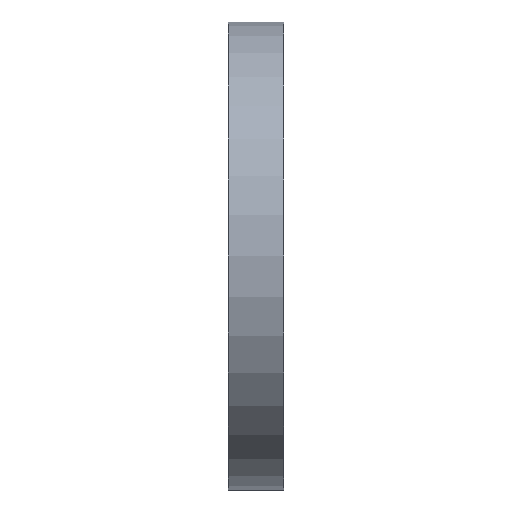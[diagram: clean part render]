
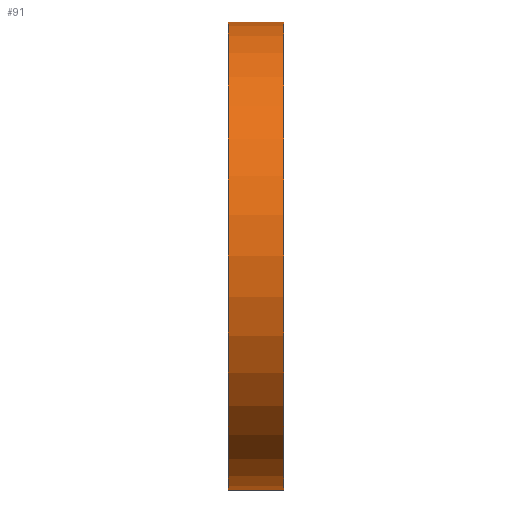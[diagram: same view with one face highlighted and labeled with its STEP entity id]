
A CAD part, left-side view. The second image highlights one B-rep face of the part: STEP entity #91.
In plain terms, the highlighted cylindrical face has radius 92.5 mm (diameter 185 mm), a partial arc.
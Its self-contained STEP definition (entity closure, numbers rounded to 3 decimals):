
#5 = CIRCLE ( 'NONE', #35, 92.5 ) ;
#6 = DIRECTION ( 'NONE',  ( 0., 0., 1. ) ) ;
#14 = CIRCLE ( 'NONE', #487, 92.5 ) ;
#32 = DIRECTION ( 'NONE',  ( 0., 1., 0. ) ) ;
#35 = AXIS2_PLACEMENT_3D ( 'NONE', #608, #32, #287 ) ;
#61 = VECTOR ( 'NONE', #681, 1000. ) ;
#91 = ADVANCED_FACE ( 'NONE', ( #839 ), #196, .T. ) ;
#133 = CARTESIAN_POINT ( 'NONE',  ( 0., 0., -92.5 ) ) ;
#154 = EDGE_LOOP ( 'NONE', ( #625, #457, #344, #827 ) ) ;
#196 = CYLINDRICAL_SURFACE ( 'NONE', #831, 92.5 ) ;
#197 = VERTEX_POINT ( 'NONE', #133 ) ;
#274 = CARTESIAN_POINT ( 'NONE',  ( 0., 22., 92.5 ) ) ;
#279 = DIRECTION ( 'NONE',  ( 0., 0., 1. ) ) ;
#285 = LINE ( 'NONE', #550, #61 ) ;
#287 = DIRECTION ( 'NONE',  ( 0., 0., 1. ) ) ;
#290 = CARTESIAN_POINT ( 'NONE',  ( 0., 0., 92.5 ) ) ;
#305 = VERTEX_POINT ( 'NONE', #290 ) ;
#321 = EDGE_CURVE ( 'NONE', #794, #354, #14, .T. ) ;
#344 = ORIENTED_EDGE ( 'NONE', *, *, #532, .T. ) ;
#354 = VERTEX_POINT ( 'NONE', #274 ) ;
#357 = DIRECTION ( 'NONE',  ( 0., 1., 0. ) ) ;
#421 = LINE ( 'NONE', #805, #547 ) ;
#457 = ORIENTED_EDGE ( 'NONE', *, *, #816, .T. ) ;
#464 = CARTESIAN_POINT ( 'NONE',  ( 0., 22., -92.5 ) ) ;
#469 = DIRECTION ( 'NONE',  ( 0., 1., 0. ) ) ;
#479 = CARTESIAN_POINT ( 'NONE',  ( 0., 22., 0. ) ) ;
#487 = AXIS2_PLACEMENT_3D ( 'NONE', #479, #469, #279 ) ;
#520 = EDGE_CURVE ( 'NONE', #197, #794, #421, .T. ) ;
#525 = CARTESIAN_POINT ( 'NONE',  ( 0., 34.695, 0. ) ) ;
#532 = EDGE_CURVE ( 'NONE', #305, #354, #285, .T. ) ;
#547 = VECTOR ( 'NONE', #357, 1000. ) ;
#550 = CARTESIAN_POINT ( 'NONE',  ( 0., 34.695, 92.5 ) ) ;
#608 = CARTESIAN_POINT ( 'NONE',  ( 0., 0., 0. ) ) ;
#625 = ORIENTED_EDGE ( 'NONE', *, *, #520, .F. ) ;
#681 = DIRECTION ( 'NONE',  ( 0., 1., 0. ) ) ;
#722 = DIRECTION ( 'NONE',  ( 0., 1., 0. ) ) ;
#794 = VERTEX_POINT ( 'NONE', #464 ) ;
#805 = CARTESIAN_POINT ( 'NONE',  ( 0., 34.695, -92.5 ) ) ;
#816 = EDGE_CURVE ( 'NONE', #197, #305, #5, .T. ) ;
#827 = ORIENTED_EDGE ( 'NONE', *, *, #321, .F. ) ;
#831 = AXIS2_PLACEMENT_3D ( 'NONE', #525, #722, #6 ) ;
#839 = FACE_OUTER_BOUND ( 'NONE', #154, .T. ) ;
